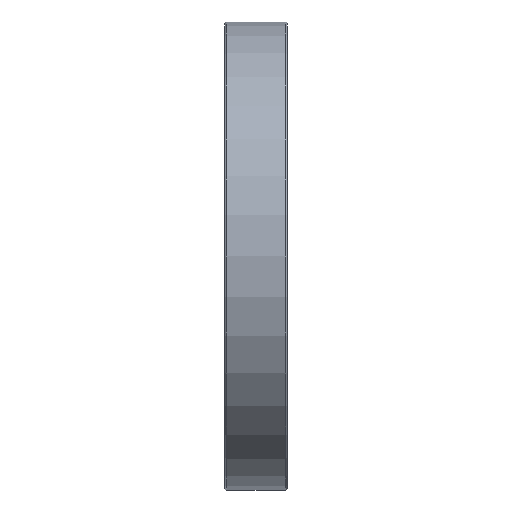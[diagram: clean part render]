
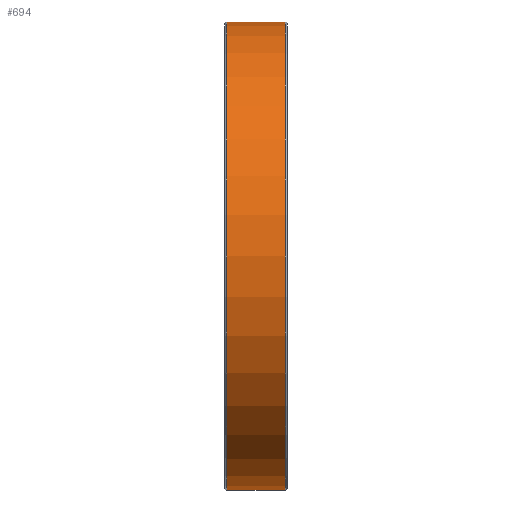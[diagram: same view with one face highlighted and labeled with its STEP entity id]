
A CAD part, front view. The second image highlights one B-rep face of the part: STEP entity #694.
In plain terms, the highlighted cylindrical face has radius 82.5 mm (diameter 165 mm), a full revolution.
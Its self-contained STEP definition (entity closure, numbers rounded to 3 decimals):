
#194=CYLINDRICAL_SURFACE('',#1114,82.5);
#330=EDGE_LOOP('',(#478));
#331=EDGE_LOOP('',(#479));
#478=ORIENTED_EDGE('',*,*,#560,.F.);
#479=ORIENTED_EDGE('',*,*,#558,.T.);
#558=EDGE_CURVE('',#1023,#1023,#578,.T.);
#560=EDGE_CURVE('',#1025,#1025,#580,.T.);
#578=CIRCLE('',#1110,82.5);
#580=CIRCLE('',#1113,82.5);
#694=ADVANCED_FACE('',(#889,#890),#194,.T.);
#889=FACE_BOUND('',#330,.T.);
#890=FACE_BOUND('',#331,.T.);
#1023=VERTEX_POINT('',#2442);
#1025=VERTEX_POINT('',#2447);
#1110=AXIS2_PLACEMENT_3D('',#2441,#1265,#1266);
#1113=AXIS2_PLACEMENT_3D('',#2446,#1271,#1272);
#1114=AXIS2_PLACEMENT_3D('',#2448,#1273,#1274);
#1265=DIRECTION('',(1.,0.,0.));
#1266=DIRECTION('',(0.,0.,-1.));
#1271=DIRECTION('',(1.,0.,0.));
#1272=DIRECTION('',(0.,0.,-1.));
#1273=DIRECTION('',(1.,0.,0.));
#1274=DIRECTION('',(0.,0.,-1.));
#2441=CARTESIAN_POINT('',(-10.4,0.,0.));
#2442=CARTESIAN_POINT('',(-10.4,0.,-82.5));
#2446=CARTESIAN_POINT('',(10.4,0.,0.));
#2447=CARTESIAN_POINT('',(10.4,0.,-82.5));
#2448=CARTESIAN_POINT('',(-10.4,0.,0.));
